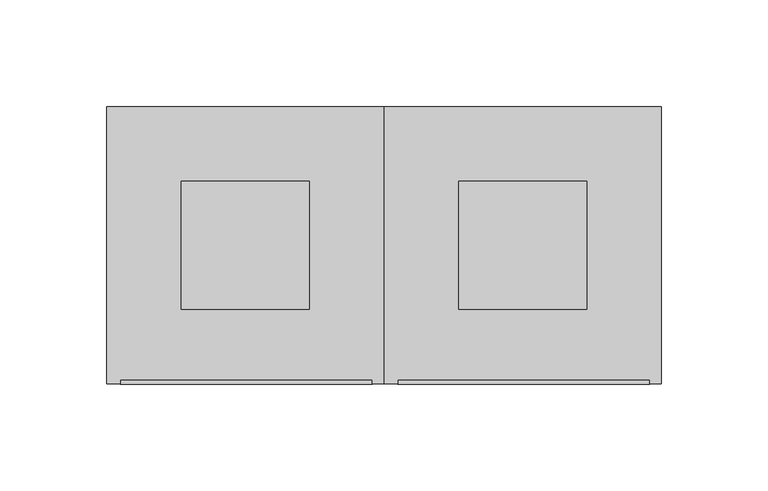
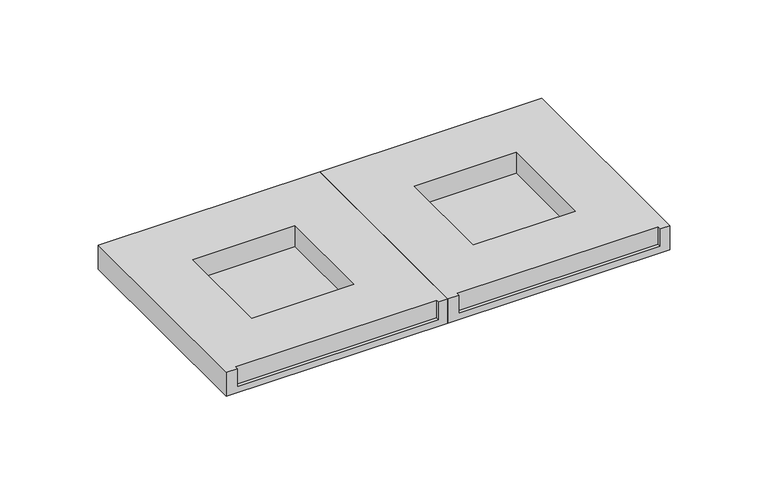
"""IFC4 building model written with IfcOpenShell, lengths in millimetres: duct fitting geometry, Суппорт универсальный - 2 поста - для кабель-каналов DLP - белый : 130мм."""

from ifc_helpers import new_model, si_unit, origin, origin_with_axes, place, context, project, spatial, polyline, outline, extrude, faceted_brep, source, transform, mapped, element, save


def duct_fitting_92680814(model_context):
    return source(origin(), model_context, "Body", "SolidModel", [
        extrude(outline(polyline([(160.0, -30.0), (100.0, -30.0), (100.0, 30.0), (160.0, 30.0), (160.0, -30.0)])), origin_with_axes(), (0.0, 0.0, 1.0), 2.0),
        faceted_brep([(195.0, -65.0, 15.0), (195.0, 65.0, 15.0), (65.0, 65.0, 15.0), (65.0, -65.0, 15.0), (71.3673154, -65.0, 15.0), (71.3673154, -63.0, 15.0), (189.5913444, -63.0, 15.0), (189.5913444, -65.0, 15.0), (160.0, -30.0, 15.0), (100.0, -30.0, 15.0), (100.0, 30.0, 15.0), (160.0, 30.0, 15.0), (195.0, -65.0, 0.0), (65.0, -65.0, 0.0), (65.0, 65.0, 0.0), (195.0, 65.0, 0.0), (160.0, -30.0, 0.0), (160.0, 30.0, 0.0), (100.0, 30.0, 0.0), (100.0, -30.0, 0.0), (189.5913444, -65.0, 3.9555715), (71.3673154, -65.0, 3.9555715), (189.5913444, -63.0, 3.9555715), (71.3673154, -63.0, 3.9555715)], [[[0, 1, 2, 3, 4, 5, 6, 7], [8, 9, 10, 11]], [[12, 13, 14, 15], [16, 17, 18, 19]], [[1, 0, 12, 15]], [[2, 1, 15, 14]], [[3, 2, 14, 13]], [[13, 12, 0, 7, 20, 21, 4, 3]], [[9, 8, 16, 19]], [[10, 9, 19, 18]], [[11, 10, 18, 17]], [[8, 11, 17, 16]], [[6, 22, 20, 7]], [[22, 23, 21, 20]], [[23, 5, 4, 21]], [[5, 23, 22, 6]]]),
        extrude(outline(polyline([(30.0, -30.0), (-30.0, -30.0), (-30.0, 30.0), (30.0, 30.0), (30.0, -30.0)])), origin_with_axes(), (0.0, 0.0, 1.0), 2.0),
        faceted_brep([(65.0, -65.0, 15.0), (65.0, 65.0, 15.0), (-65.0, 65.0, 15.0), (-65.0, -65.0, 15.0), (-58.6326846, -65.0, 15.0), (-58.6326846, -63.0, 15.0), (59.5913444, -63.0, 15.0), (59.5913444, -65.0, 15.0), (30.0, -30.0, 15.0), (-30.0, -30.0, 15.0), (-30.0, 30.0, 15.0), (30.0, 30.0, 15.0), (65.0, -65.0, 0.0), (-65.0, -65.0, 0.0), (-65.0, 65.0, 0.0), (65.0, 65.0, 0.0), (30.0, -30.0, 0.0), (30.0, 30.0, 0.0), (-30.0, 30.0, 0.0), (-30.0, -30.0, 0.0), (59.5913444, -65.0, 3.9555715), (-58.6326846, -65.0, 3.9555715), (59.5913444, -63.0, 3.9555715), (-58.6326846, -63.0, 3.9555715)], [[[0, 1, 2, 3, 4, 5, 6, 7], [8, 9, 10, 11]], [[12, 13, 14, 15], [16, 17, 18, 19]], [[1, 0, 12, 15]], [[2, 1, 15, 14]], [[3, 2, 14, 13]], [[13, 12, 0, 7, 20, 21, 4, 3]], [[9, 8, 16, 19]], [[10, 9, 19, 18]], [[11, 10, 18, 17]], [[8, 11, 17, 16]], [[6, 22, 20, 7]], [[22, 23, 21, 20]], [[23, 5, 4, 21]], [[5, 23, 22, 6]]]),
    ])


if __name__ == "__main__":
    model = new_model("IFC4")
    model_context = context("Model", 3, world=origin())
    ifc_project = project(units=[si_unit("LENGTHUNIT", "METRE", prefix="MILLI")], contexts=[model_context])
    site = spatial("IfcSite", under=ifc_project)
    building = spatial("IfcBuilding", under=site)
    placement = place(None, origin())
    duct_fitting_shape = duct_fitting_92680814(model_context)
    element("IfcDuctFitting", 1, ObjectType="Суппорт универсальный - 2 поста - для кабель-каналов DLP - белый : 130мм", at=placement, inside=building, context=model_context, shape_type="MappedRepresentation", body=[
        mapped(duct_fitting_shape, transform((0.0, 0.0, 0.0), x_axis=(1.0, 0.0, 0.0), y_axis=(0.0, 1.0, 0.0), z_axis=(0.0, 0.0, 1.0))),
    ])
    save(model, "model.ifc")
